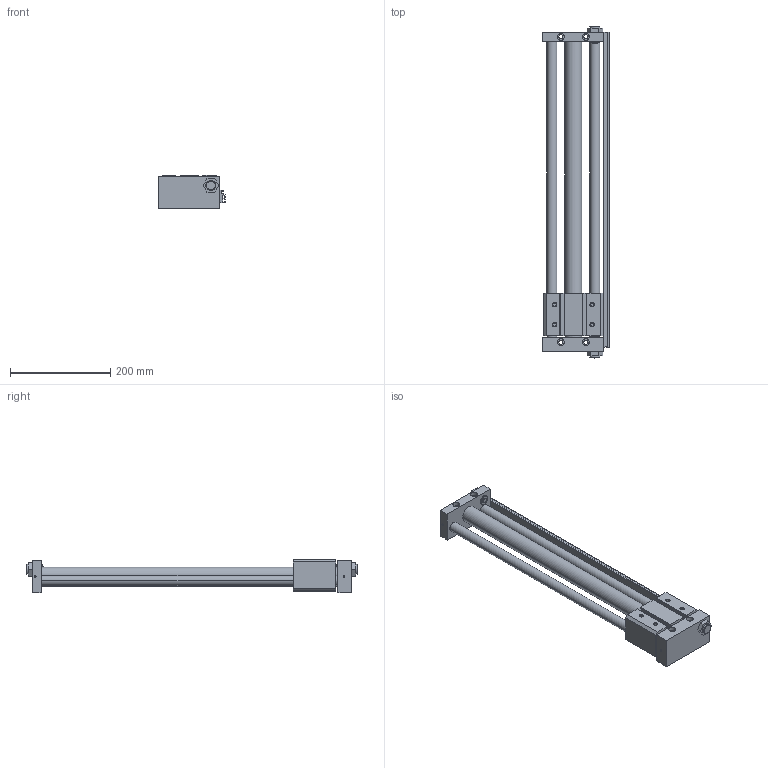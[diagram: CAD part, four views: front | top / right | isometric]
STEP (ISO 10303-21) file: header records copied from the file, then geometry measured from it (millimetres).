
FILE_DESCRIPTION((''),'2;1');
FILE_NAME('C:\Documents and Settings\Administrator\桌面\GYS\GYS32\GYSR32X500.stp','2012-03-06T20:17:32',('Administrator'),(''),'Autodesk Inventor 8','Autodesk Inventor 8','');
FILE_SCHEMA(('AUTOMOTIVE_DESIGN { 1 0 10303 214 1 1 1 1 }'));
Length unit declared in the file: millimetre
Products named in the file (3): GYSR32X500; GYS32X500; GYS32160X500
Assembly tree (2 placements, depth 2):
  GYSR32X500
    GYS32X500
    GYS32160X500
Bounding box: 132.5 x 663 x 66 mm (x, y, z)
Volume: 1822368.4 mm3; surface area: 293955.5 mm2
Topology: 2 solids, 2 shells, 291 faces, 770 edges, 504 vertices
Faces by surface type: plane 161, cylinder 96, cone 28, bspline 6
Entity records: 9200 total; most frequent: CARTESIAN_POINT 1644, DIRECTION 1598, ORIENTED_EDGE 1540, EDGE_CURVE 770, AXIS2_PLACEMENT_3D 538, VECTOR 522, LINE 522, VERTEX_POINT 504
